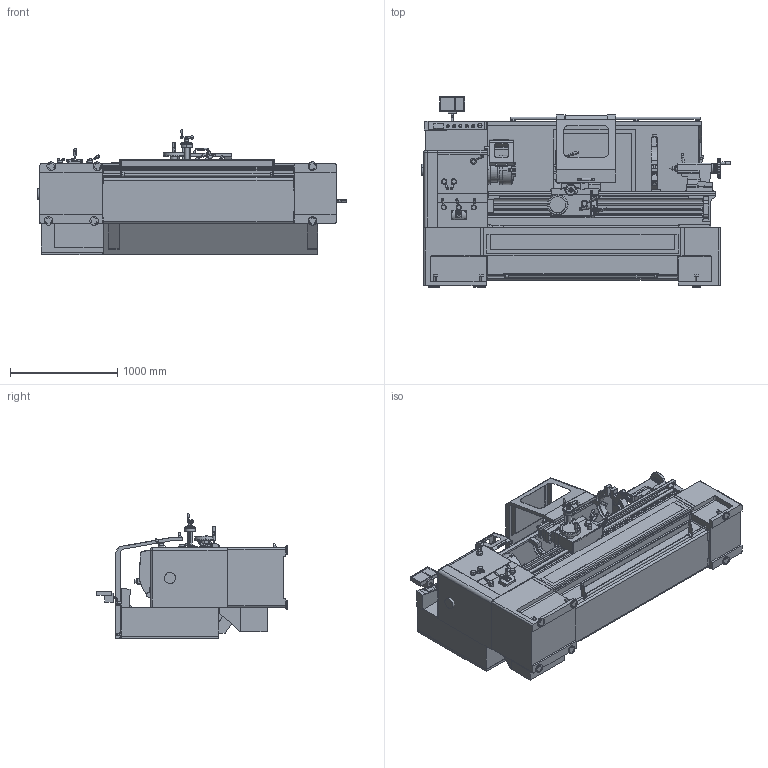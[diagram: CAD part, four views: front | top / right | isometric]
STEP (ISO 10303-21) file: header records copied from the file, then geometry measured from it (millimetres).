
FILE_DESCRIPTION (( 'STEP AP203' ), '1' );
FILE_NAME ('HML-3V.STEP', '2026-07-16T18:16:15', ( '' ), ( '' ), 'SwSTEP 2.0', 'SolidWorks 2025', '' );
FILE_SCHEMA (( 'CONFIG_CONTROL_DESIGN' ));
Length unit declared in the file: inch
Products named in the file (14): Control Panel and Headstock 3V; Digital Readout 3V; Tailstock 3V; Cabinet and Panel 3V; Chuck Safety Guard 3V; Bed And Shafts 3V; Compound Rest & 4-way Tool Post 3V; Base 3V; HML-3V; 3 Jaw Chuck 3V; Sliding Safety Guard 3V; Steady Rest 3V; Cross Slide & Apron 3V; Leveling Pads 3V
Assembly tree (13 placements, depth 2):
  HML-3V
    Base 3V
    Cabinet and Panel 3V
    Sliding Safety Guard 3V
    Control Panel and Headstock 3V
    3 Jaw Chuck 3V
    Chuck Safety Guard 3V
    Bed And Shafts 3V
    Tailstock 3V
    Cross Slide & Apron 3V
    Compound Rest & 4-way Tool Post 3V
    Steady Rest 3V
    Leveling Pads 3V
    Digital Readout 3V
Bounding box: 2886.34 x 1775.6 x 1174 mm (x, y, z)
Volume: 1034527555 mm3; surface area: 37553568.3 mm2
Topology: 33 solids, 35 shells, 7768 faces, 20474 edges, 13441 vertices
Faces by surface type: plane 4144, cylinder 1835, bspline 1282, cone 318, torus 155, sphere 34
Entity records: 397049 total; most frequent: CARTESIAN_POINT 214666, ORIENTED_EDGE 40848, DIRECTION 32099, EDGE_CURVE 20424, VERTEX_POINT 13423, VECTOR 10837, LINE 10837, AXIS2_PLACEMENT_3D 10631
